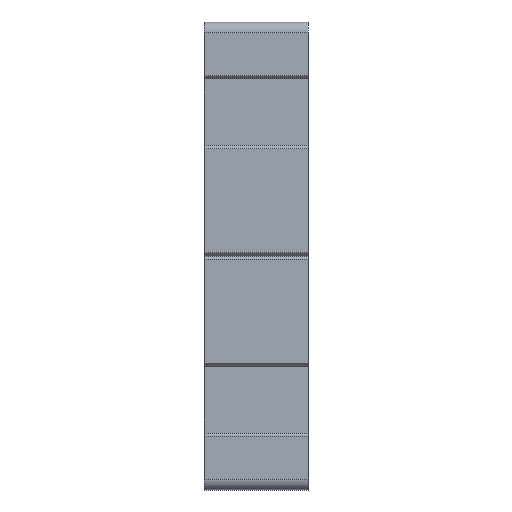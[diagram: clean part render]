
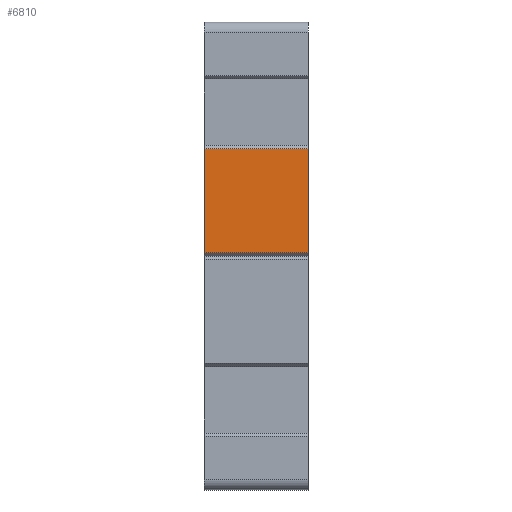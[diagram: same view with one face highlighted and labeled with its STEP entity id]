
A CAD part, left-side view. The second image highlights one B-rep face of the part: STEP entity #6810.
In plain terms, the highlighted planar face has unit normal (-1, 0, 0).
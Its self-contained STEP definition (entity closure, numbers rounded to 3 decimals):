
#417=DIRECTION('',(0.,0.,1.));
#418=VECTOR('',#417,10.03);
#419=CARTESIAN_POINT('',(-22.5,0.,0.3));
#420=LINE('',#419,#418);
#1493=DIRECTION('',(0.,0.,1.));
#1494=VECTOR('',#1493,10.03);
#1495=CARTESIAN_POINT('',(-22.5,10.,0.3));
#1496=LINE('',#1495,#1494);
#2511=DIRECTION('',(0.,1.,0.));
#2512=VECTOR('',#2511,10.);
#2513=CARTESIAN_POINT('',(-22.5,0.,0.3));
#2514=LINE('',#2513,#2512);
#2515=DIRECTION('',(0.,1.,0.));
#2516=VECTOR('',#2515,10.);
#2517=CARTESIAN_POINT('',(-22.5,0.,10.33));
#2518=LINE('',#2517,#2516);
#3719=CARTESIAN_POINT('',(-22.5,0.,10.33));
#3720=VERTEX_POINT('',#3719);
#3783=CARTESIAN_POINT('',(-22.5,10.,10.33));
#3784=VERTEX_POINT('',#3783);
#3797=CARTESIAN_POINT('',(-22.5,0.,0.3));
#3799=VERTEX_POINT('',#3797);
#3833=CARTESIAN_POINT('',(-22.5,10.,0.3));
#3835=VERTEX_POINT('',#3833);
#6797=CARTESIAN_POINT('',(-22.5,0.,-22.5));
#6798=DIRECTION('',(-1.,0.,0.));
#6799=DIRECTION('',(0.,0.,1.));
#6800=AXIS2_PLACEMENT_3D('',#6797,#6798,#6799);
#6801=PLANE('',#6800);
#6803=ORIENTED_EDGE('',*,*,#6802,.T.);
#6804=ORIENTED_EDGE('',*,*,#4720,.T.);
#6806=ORIENTED_EDGE('',*,*,#6805,.F.);
#6807=ORIENTED_EDGE('',*,*,#3934,.F.);
#6808=EDGE_LOOP('',(#6803,#6804,#6806,#6807));
#6809=FACE_OUTER_BOUND('',#6808,.F.);
#6810=ADVANCED_FACE('',(#6809),#6801,.T.);
#3934=EDGE_CURVE('',#3799,#3720,#420,.T.);
#4720=EDGE_CURVE('',#3835,#3784,#1496,.T.);
#6802=EDGE_CURVE('',#3799,#3835,#2514,.T.);
#6805=EDGE_CURVE('',#3720,#3784,#2518,.T.);
